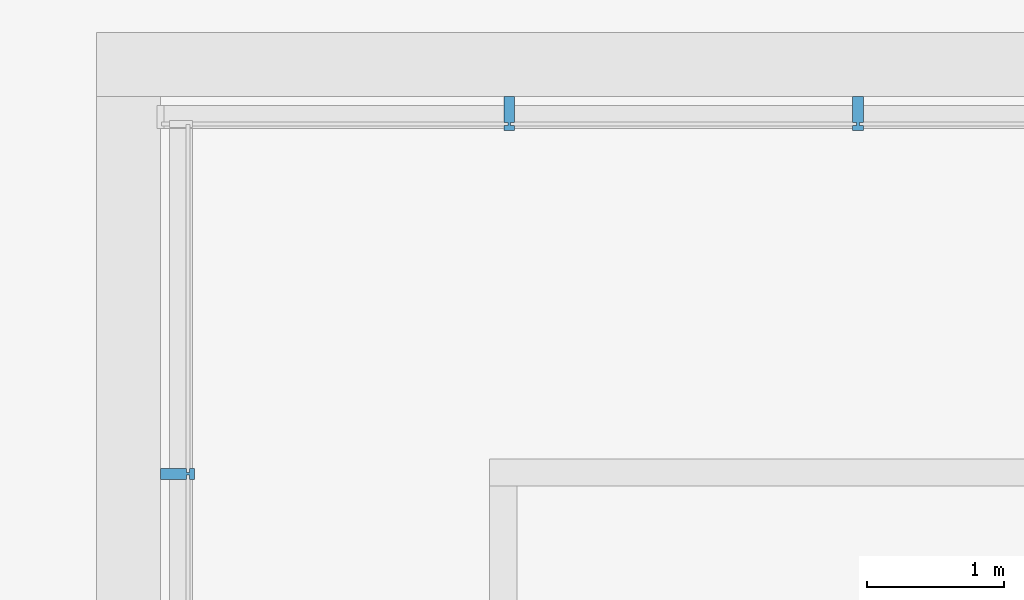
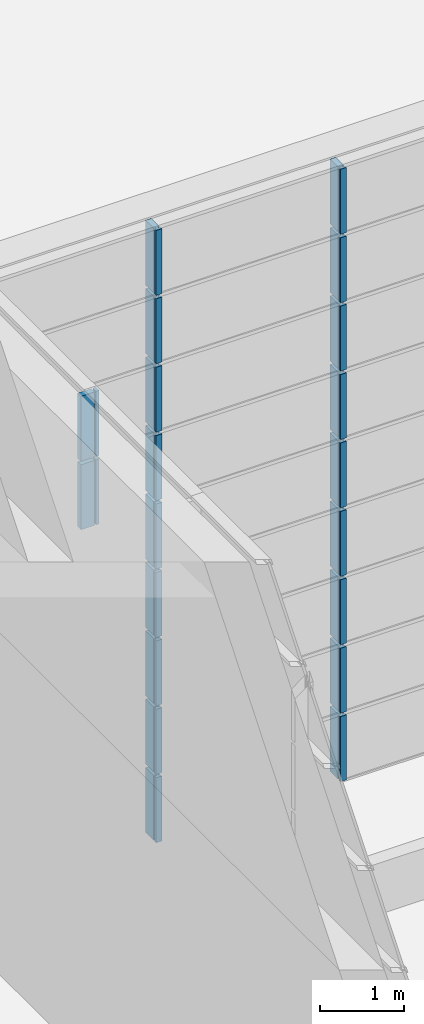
# One storey, part 79 of 105: 20 building element parts, 4 elements without a shape of their own.
"""IFC4 building model written with IfcOpenShell, lengths in millimetres."""

from ifc_helpers import new_model, entity, si_unit, converted_unit, derived_unit, direction, frame, origin_with_axes, place, context, subcontext, project, spatial, triangles, material, element, aggregate, save


model = new_model("IFC4")

# Units and contexts
model_context = context("Model", 3, precision=1e-05, world=origin_with_axes(), true_north=direction((0.0, 1.0)))
body_context = subcontext(model_context, "Body", "Model", "MODEL_VIEW")
ifc_project = project(units=[si_unit("LENGTHUNIT", "METRE", prefix="MILLI"), si_unit("AREAUNIT", "SQUARE_METRE"), si_unit("VOLUMEUNIT", "CUBIC_METRE"), converted_unit("PLANEANGLEUNIT", "DEGREE", entity("IfcLengthMeasure", 0.017453), si_unit("PLANEANGLEUNIT", "RADIAN"), dimensions=[0, 0, 0, 0, 0, 0, 0]), si_unit("SOLIDANGLEUNIT", "STERADIAN"), si_unit("MASSUNIT", "GRAM"), si_unit("TIMEUNIT", "SECOND"), si_unit("THERMODYNAMICTEMPERATUREUNIT", "DEGREE_CELSIUS"), si_unit("LUMINOUSINTENSITYUNIT", "LUMEN"), si_unit("POWERUNIT", "WATT"), derived_unit("THERMALTRANSMITTANCEUNIT", [(si_unit("POWERUNIT", "WATT"), 1), (si_unit("THERMODYNAMICTEMPERATUREUNIT", "KELVIN"), -1), (si_unit("AREAUNIT", "SQUARE_METRE"), -1)])], contexts=[model_context])

# Site, building, storey
site_placement = place(None, origin_with_axes())
site = spatial("IfcSite", under=ifc_project, at=site_placement, Name="Default Site", CompositionType="ELEMENT")
building_placement = place(site_placement, origin_with_axes())
building = spatial("IfcBuilding", under=site, at=building_placement, Name="Default Building", CompositionType="ELEMENT")
storey_placement = place(building_placement, origin_with_axes())
storey = spatial("IfcBuildingStorey", under=building, at=storey_placement, Name="OG - Story", CompositionType="ELEMENT", Elevation=0.0)

# Curtain wall, building element parts
curtain_wall_1_placement = place(storey_placement, origin_with_axes())
curtain_wall_1 = element("IfcCurtainWall", 1, at=curtain_wall_1_placement, inside=storey, Name="Fassade-005", PredefinedType="NOTDEFINED")
ifc_material = material(Name="Blech")
building_element_part_1_placement = place(curtain_wall_1_placement, frame((52496.845873, -27789.262838, 3000.0), z_axis=(0.0, 0.0, 1.0), x_axis=(1.0, 0.0, 0.0)))
building_element_part_1 = element("IfcBuildingElementPart", 2, at=building_element_part_1_placement, material=ifc_material, Name="Blech", PredefinedType="NOTDEFINED", context=body_context, shape_type="Tessellation", body=[
    triangles([(1315.455, 10.0, 975.0), (1315.455, 200.0, 975.0), (1285.455, 10.0, 975.0), (1265.455, 10.0, 975.0), (1285.455, -9.999, 975.0), (1315.455, -49.999, 975.0), (1315.455, -9.999, 975.0), (1235.455, 200.0, 975.0), (1235.455, 10.0, 975.0), (1265.455, -9.999, 975.0), (1235.455, -9.999, 975.0), (1235.455, -49.999, 975.0), (1285.455, 10.0, 25.0), (1315.455, 10.0, 25.0), (1315.455, 200.0, 25.0), (1235.455, 200.0, 25.0), (1235.455, 10.0, 25.0), (1265.455, 10.0, 25.0), (1265.455, -9.999, 25.0), (1235.455, -9.999, 25.0), (1235.455, -49.999, 25.0), (1315.455, -49.999, 25.0), (1315.455, -9.999, 25.0), (1285.455, -9.999, 25.0)], [[1, 2, 3], [3, 2, 4], [3, 4, 5], [5, 4, 6], [5, 6, 7], [8, 9, 4], [8, 4, 2], [6, 4, 10], [6, 10, 11], [6, 11, 12], [1, 3, 13], [1, 13, 14], [1, 14, 15], [1, 15, 2], [2, 15, 16], [2, 16, 8], [9, 8, 16], [9, 16, 17], [9, 17, 18], [9, 18, 4], [4, 18, 19], [4, 19, 10], [11, 10, 19], [11, 19, 20], [20, 21, 12], [20, 12, 11], [12, 21, 22], [12, 22, 6], [23, 7, 6], [23, 6, 22], [5, 7, 23], [5, 23, 24], [3, 5, 24], [3, 24, 13], [23, 22, 24], [24, 22, 19], [24, 19, 13], [13, 19, 15], [13, 15, 14], [21, 20, 19], [21, 19, 22], [15, 19, 18], [15, 18, 17], [15, 17, 16]], closed=False),
])
building_element_part_2_placement = place(curtain_wall_1_placement, frame((52496.845873, -27789.262838, 3000.0), z_axis=(0.0, 0.0, 1.0), x_axis=(1.0, 0.0, 0.0)))
building_element_part_2 = element("IfcBuildingElementPart", 3, at=building_element_part_2_placement, material=ifc_material, Name="Blech", PredefinedType="NOTDEFINED", context=body_context, shape_type="Tessellation", body=[
    triangles([(3866.364, 10.0, 975.0), (3866.364, 200.0, 975.0), (3836.364, 10.0, 975.0), (3816.364, 10.0, 975.0), (3836.364, -9.999, 975.0), (3866.364, -49.999, 975.0), (3866.364, -9.999, 975.0), (3786.364, 200.0, 975.0), (3786.364, 10.0, 975.0), (3816.364, -9.999, 975.0), (3786.364, -9.999, 975.0), (3786.364, -49.999, 975.0), (3836.364, 10.0, 25.0), (3866.364, 10.0, 25.0), (3866.364, 200.0, 25.0), (3786.364, 200.0, 25.0), (3786.364, 10.0, 25.0), (3816.364, 10.0, 25.0), (3816.364, -9.999, 25.0), (3786.364, -9.999, 25.0), (3786.364, -49.999, 25.0), (3866.364, -49.999, 25.0), (3866.364, -9.999, 25.0), (3836.364, -9.999, 25.0)], [[1, 2, 3], [3, 2, 4], [3, 4, 5], [5, 4, 6], [5, 6, 7], [8, 9, 4], [8, 4, 2], [6, 4, 10], [6, 10, 11], [6, 11, 12], [1, 3, 13], [1, 13, 14], [1, 14, 15], [1, 15, 2], [2, 15, 16], [2, 16, 8], [9, 8, 16], [9, 16, 17], [9, 17, 18], [9, 18, 4], [4, 18, 19], [4, 19, 10], [11, 10, 19], [11, 19, 20], [20, 21, 12], [20, 12, 11], [12, 21, 22], [12, 22, 6], [23, 7, 6], [23, 6, 22], [5, 7, 23], [5, 23, 24], [3, 5, 24], [3, 24, 13], [23, 22, 24], [24, 22, 19], [24, 19, 13], [13, 19, 15], [13, 15, 14], [21, 20, 19], [21, 19, 22], [15, 19, 18], [15, 18, 17], [15, 17, 16]], closed=False),
])
building_element_part_3_placement = place(curtain_wall_1_placement, frame((52496.845873, -27789.262838, 3000.0), z_axis=(0.0, 0.0, 1.0), x_axis=(1.0, 0.0, 0.0)))
building_element_part_3 = element("IfcBuildingElementPart", 4, at=building_element_part_3_placement, material=ifc_material, Name="Blech", PredefinedType="NOTDEFINED", context=body_context, shape_type="Tessellation", body=[
    triangles([(1315.455, 10.0, 1975.0), (1315.455, 200.0, 1975.0), (1285.455, 10.0, 1975.0), (1265.455, 10.0, 1975.0), (1285.455, -9.999, 1975.0), (1315.455, -49.999, 1975.0), (1315.455, -9.999, 1975.0), (1235.455, 200.0, 1975.0), (1235.455, 10.0, 1975.0), (1265.455, -9.999, 1975.0), (1235.455, -9.999, 1975.0), (1235.455, -49.999, 1975.0), (1285.455, 10.0, 1025.0), (1315.455, 10.0, 1025.0), (1315.455, 200.0, 1025.0), (1235.455, 200.0, 1025.0), (1235.455, 10.0, 1025.0), (1265.455, 10.0, 1025.0), (1265.455, -9.999, 1025.0), (1235.455, -9.999, 1025.0), (1235.455, -49.999, 1025.0), (1315.455, -49.999, 1025.0), (1315.455, -9.999, 1025.0), (1285.455, -9.999, 1025.0)], [[1, 2, 3], [3, 2, 4], [3, 4, 5], [5, 4, 6], [5, 6, 7], [8, 9, 4], [8, 4, 2], [6, 4, 10], [6, 10, 11], [6, 11, 12], [1, 3, 13], [1, 13, 14], [1, 14, 15], [1, 15, 2], [2, 15, 16], [2, 16, 8], [9, 8, 16], [9, 16, 17], [9, 17, 18], [9, 18, 4], [4, 18, 19], [4, 19, 10], [11, 10, 19], [11, 19, 20], [20, 21, 12], [20, 12, 11], [12, 21, 22], [12, 22, 6], [23, 7, 6], [23, 6, 22], [5, 7, 23], [5, 23, 24], [3, 5, 24], [3, 24, 13], [23, 22, 24], [24, 22, 19], [24, 19, 13], [13, 19, 15], [13, 15, 14], [21, 20, 19], [21, 19, 22], [15, 19, 18], [15, 18, 17], [15, 17, 16]], closed=False),
])
building_element_part_4_placement = place(curtain_wall_1_placement, frame((52496.845873, -27789.262838, 3000.0), z_axis=(0.0, 0.0, 1.0), x_axis=(1.0, 0.0, 0.0)))
building_element_part_4 = element("IfcBuildingElementPart", 5, at=building_element_part_4_placement, material=ifc_material, Name="Blech", PredefinedType="NOTDEFINED", context=body_context, shape_type="Tessellation", body=[
    triangles([(3866.364, 10.0, 1975.0), (3866.364, 200.0, 1975.0), (3836.364, 10.0, 1975.0), (3816.364, 10.0, 1975.0), (3836.364, -9.999, 1975.0), (3866.364, -49.999, 1975.0), (3866.364, -9.999, 1975.0), (3786.364, 200.0, 1975.0), (3786.364, 10.0, 1975.0), (3816.364, -9.999, 1975.0), (3786.364, -9.999, 1975.0), (3786.364, -49.999, 1975.0), (3836.364, 10.0, 1025.0), (3866.364, 10.0, 1025.0), (3866.364, 200.0, 1025.0), (3786.364, 200.0, 1025.0), (3786.364, 10.0, 1025.0), (3816.364, 10.0, 1025.0), (3816.364, -9.999, 1025.0), (3786.364, -9.999, 1025.0), (3786.364, -49.999, 1025.0), (3866.364, -49.999, 1025.0), (3866.364, -9.999, 1025.0), (3836.364, -9.999, 1025.0)], [[1, 2, 3], [3, 2, 4], [3, 4, 5], [5, 4, 6], [5, 6, 7], [8, 9, 4], [8, 4, 2], [6, 4, 10], [6, 10, 11], [6, 11, 12], [1, 3, 13], [1, 13, 14], [1, 14, 15], [1, 15, 2], [2, 15, 16], [2, 16, 8], [9, 8, 16], [9, 16, 17], [9, 17, 18], [9, 18, 4], [4, 18, 19], [4, 19, 10], [11, 10, 19], [11, 19, 20], [20, 21, 12], [20, 12, 11], [12, 21, 22], [12, 22, 6], [23, 7, 6], [23, 6, 22], [5, 7, 23], [5, 23, 24], [3, 5, 24], [3, 24, 13], [23, 22, 24], [24, 22, 19], [24, 19, 13], [13, 19, 15], [13, 15, 14], [21, 20, 19], [21, 19, 22], [15, 19, 18], [15, 18, 17], [15, 17, 16]], closed=False),
])
building_element_part_5_placement = place(curtain_wall_1_placement, frame((52496.845873, -27789.262838, 3000.0), z_axis=(0.0, 0.0, 1.0), x_axis=(1.0, 0.0, 0.0)))
building_element_part_5 = element("IfcBuildingElementPart", 6, at=building_element_part_5_placement, material=ifc_material, Name="Blech", PredefinedType="NOTDEFINED", context=body_context, shape_type="Tessellation", body=[
    triangles([(1315.455, 10.0, 2975.0), (1315.455, 200.0, 2975.0), (1285.455, 10.0, 2975.0), (1265.455, 10.0, 2975.0), (1285.455, -9.999, 2975.0), (1315.455, -49.999, 2975.0), (1315.455, -9.999, 2975.0), (1235.455, 200.0, 2975.0), (1235.455, 10.0, 2975.0), (1265.455, -9.999, 2975.0), (1235.455, -9.999, 2975.0), (1235.455, -49.999, 2975.0), (1285.455, 10.0, 2025.0), (1315.455, 10.0, 2025.0), (1315.455, 200.0, 2025.0), (1235.455, 200.0, 2025.0), (1235.455, 10.0, 2025.0), (1265.455, 10.0, 2025.0), (1265.455, -9.999, 2025.0), (1235.455, -9.999, 2025.0), (1235.455, -49.999, 2025.0), (1315.455, -49.999, 2025.0), (1315.455, -9.999, 2025.0), (1285.455, -9.999, 2025.0)], [[1, 2, 3], [3, 2, 4], [3, 4, 5], [5, 4, 6], [5, 6, 7], [8, 9, 4], [8, 4, 2], [6, 4, 10], [6, 10, 11], [6, 11, 12], [1, 3, 13], [1, 13, 14], [1, 14, 15], [1, 15, 2], [2, 15, 16], [2, 16, 8], [9, 8, 16], [9, 16, 17], [9, 17, 18], [9, 18, 4], [4, 18, 19], [4, 19, 10], [11, 10, 19], [11, 19, 20], [20, 21, 12], [20, 12, 11], [12, 21, 22], [12, 22, 6], [23, 7, 6], [23, 6, 22], [5, 7, 23], [5, 23, 24], [3, 5, 24], [3, 24, 13], [23, 22, 24], [24, 22, 19], [24, 19, 13], [13, 19, 15], [13, 15, 14], [21, 20, 19], [21, 19, 22], [15, 19, 18], [15, 18, 17], [15, 17, 16]], closed=False),
])
building_element_part_6_placement = place(curtain_wall_1_placement, frame((52496.845873, -27789.262838, 3000.0), z_axis=(0.0, 0.0, 1.0), x_axis=(1.0, 0.0, 0.0)))
building_element_part_6 = element("IfcBuildingElementPart", 7, at=building_element_part_6_placement, material=ifc_material, Name="Blech", PredefinedType="NOTDEFINED", context=body_context, shape_type="Tessellation", body=[
    triangles([(3866.364, 10.0, 2975.0), (3866.364, 200.0, 2975.0), (3836.364, 10.0, 2975.0), (3816.364, 10.0, 2975.0), (3836.364, -9.999, 2975.0), (3866.364, -49.999, 2975.0), (3866.364, -9.999, 2975.0), (3786.364, 200.0, 2975.0), (3786.364, 10.0, 2975.0), (3816.364, -9.999, 2975.0), (3786.364, -9.999, 2975.0), (3786.364, -49.999, 2975.0), (3836.364, 10.0, 2025.0), (3866.364, 10.0, 2025.0), (3866.364, 200.0, 2025.0), (3786.364, 200.0, 2025.0), (3786.364, 10.0, 2025.0), (3816.364, 10.0, 2025.0), (3816.364, -9.999, 2025.0), (3786.364, -9.999, 2025.0), (3786.364, -49.999, 2025.0), (3866.364, -49.999, 2025.0), (3866.364, -9.999, 2025.0), (3836.364, -9.999, 2025.0)], [[1, 2, 3], [3, 2, 4], [3, 4, 5], [5, 4, 6], [5, 6, 7], [8, 9, 4], [8, 4, 2], [6, 4, 10], [6, 10, 11], [6, 11, 12], [1, 3, 13], [1, 13, 14], [1, 14, 15], [1, 15, 2], [2, 15, 16], [2, 16, 8], [9, 8, 16], [9, 16, 17], [9, 17, 18], [9, 18, 4], [4, 18, 19], [4, 19, 10], [11, 10, 19], [11, 19, 20], [20, 21, 12], [20, 12, 11], [12, 21, 22], [12, 22, 6], [23, 7, 6], [23, 6, 22], [5, 7, 23], [5, 23, 24], [3, 5, 24], [3, 24, 13], [23, 22, 24], [24, 22, 19], [24, 19, 13], [13, 19, 15], [13, 15, 14], [21, 20, 19], [21, 19, 22], [15, 19, 18], [15, 18, 17], [15, 17, 16]], closed=False),
])
aggregate(curtain_wall_1, [building_element_part_1, building_element_part_2, building_element_part_3, building_element_part_4, building_element_part_5, building_element_part_6])

curtain_wall_2_placement = place(storey_placement, origin_with_axes())
curtain_wall_2 = element("IfcCurtainWall", 8, at=curtain_wall_2_placement, inside=storey, Name="Fassade-005", PredefinedType="NOTDEFINED")
building_element_part_7_placement = place(curtain_wall_2_placement, frame((52496.845873, -27789.262838, 6000.0), z_axis=(0.0, 0.0, 1.0), x_axis=(1.0, 0.0, 0.0)))
building_element_part_7 = element("IfcBuildingElementPart", 9, at=building_element_part_7_placement, material=ifc_material, Name="Blech", PredefinedType="NOTDEFINED", context=body_context, shape_type="Tessellation", body=[
    triangles([(1315.455, 10.0, 975.0), (1315.455, 200.0, 975.0), (1285.455, 10.0, 975.0), (1265.455, 10.0, 975.0), (1285.455, -9.999, 975.0), (1315.455, -49.999, 975.0), (1315.455, -9.999, 975.0), (1235.455, 200.0, 975.0), (1235.455, 10.0, 975.0), (1265.455, -9.999, 975.0), (1235.455, -9.999, 975.0), (1235.455, -49.999, 975.0), (1285.455, 10.0, 25.0), (1315.455, 10.0, 25.0), (1315.455, 200.0, 25.0), (1235.455, 200.0, 25.0), (1235.455, 10.0, 25.0), (1265.455, 10.0, 25.0), (1265.455, -9.999, 25.0), (1235.455, -9.999, 25.0), (1235.455, -49.999, 25.0), (1315.455, -49.999, 25.0), (1315.455, -9.999, 25.0), (1285.455, -9.999, 25.0)], [[1, 2, 3], [3, 2, 4], [3, 4, 5], [5, 4, 6], [5, 6, 7], [8, 9, 4], [8, 4, 2], [6, 4, 10], [6, 10, 11], [6, 11, 12], [1, 3, 13], [1, 13, 14], [1, 14, 15], [1, 15, 2], [2, 15, 16], [2, 16, 8], [9, 8, 16], [9, 16, 17], [9, 17, 18], [9, 18, 4], [4, 18, 19], [4, 19, 10], [11, 10, 19], [11, 19, 20], [20, 21, 12], [20, 12, 11], [12, 21, 22], [12, 22, 6], [23, 7, 6], [23, 6, 22], [5, 7, 23], [5, 23, 24], [3, 5, 24], [3, 24, 13], [23, 22, 24], [24, 22, 19], [24, 19, 13], [13, 19, 15], [13, 15, 14], [21, 20, 19], [21, 19, 22], [15, 19, 18], [15, 18, 17], [15, 17, 16]], closed=False),
])
building_element_part_8_placement = place(curtain_wall_2_placement, frame((52496.845873, -27789.262838, 6000.0), z_axis=(0.0, 0.0, 1.0), x_axis=(1.0, 0.0, 0.0)))
building_element_part_8 = element("IfcBuildingElementPart", 10, at=building_element_part_8_placement, material=ifc_material, Name="Blech", PredefinedType="NOTDEFINED", context=body_context, shape_type="Tessellation", body=[
    triangles([(3866.364, 10.0, 975.0), (3866.364, 200.0, 975.0), (3836.364, 10.0, 975.0), (3816.364, 10.0, 975.0), (3836.364, -9.999, 975.0), (3866.364, -49.999, 975.0), (3866.364, -9.999, 975.0), (3786.364, 200.0, 975.0), (3786.364, 10.0, 975.0), (3816.364, -9.999, 975.0), (3786.364, -9.999, 975.0), (3786.364, -49.999, 975.0), (3836.364, 10.0, 25.0), (3866.364, 10.0, 25.0), (3866.364, 200.0, 25.0), (3786.364, 200.0, 25.0), (3786.364, 10.0, 25.0), (3816.364, 10.0, 25.0), (3816.364, -9.999, 25.0), (3786.364, -9.999, 25.0), (3786.364, -49.999, 25.0), (3866.364, -49.999, 25.0), (3866.364, -9.999, 25.0), (3836.364, -9.999, 25.0)], [[1, 2, 3], [3, 2, 4], [3, 4, 5], [5, 4, 6], [5, 6, 7], [8, 9, 4], [8, 4, 2], [6, 4, 10], [6, 10, 11], [6, 11, 12], [1, 3, 13], [1, 13, 14], [1, 14, 15], [1, 15, 2], [2, 15, 16], [2, 16, 8], [9, 8, 16], [9, 16, 17], [9, 17, 18], [9, 18, 4], [4, 18, 19], [4, 19, 10], [11, 10, 19], [11, 19, 20], [20, 21, 12], [20, 12, 11], [12, 21, 22], [12, 22, 6], [23, 7, 6], [23, 6, 22], [5, 7, 23], [5, 23, 24], [3, 5, 24], [3, 24, 13], [23, 22, 24], [24, 22, 19], [24, 19, 13], [13, 19, 15], [13, 15, 14], [21, 20, 19], [21, 19, 22], [15, 19, 18], [15, 18, 17], [15, 17, 16]], closed=False),
])
building_element_part_9_placement = place(curtain_wall_2_placement, frame((52496.845873, -27789.262838, 6000.0), z_axis=(0.0, 0.0, 1.0), x_axis=(1.0, 0.0, 0.0)))
building_element_part_9 = element("IfcBuildingElementPart", 11, at=building_element_part_9_placement, material=ifc_material, Name="Blech", PredefinedType="NOTDEFINED", context=body_context, shape_type="Tessellation", body=[
    triangles([(1315.455, 10.0, 1975.0), (1315.455, 200.0, 1975.0), (1285.455, 10.0, 1975.0), (1265.455, 10.0, 1975.0), (1285.455, -9.999, 1975.0), (1315.455, -49.999, 1975.0), (1315.455, -9.999, 1975.0), (1235.455, 200.0, 1975.0), (1235.455, 10.0, 1975.0), (1265.455, -9.999, 1975.0), (1235.455, -9.999, 1975.0), (1235.455, -49.999, 1975.0), (1285.455, 10.0, 1025.0), (1315.455, 10.0, 1025.0), (1315.455, 200.0, 1025.0), (1235.455, 200.0, 1025.0), (1235.455, 10.0, 1025.0), (1265.455, 10.0, 1025.0), (1265.455, -9.999, 1025.0), (1235.455, -9.999, 1025.0), (1235.455, -49.999, 1025.0), (1315.455, -49.999, 1025.0), (1315.455, -9.999, 1025.0), (1285.455, -9.999, 1025.0)], [[1, 2, 3], [3, 2, 4], [3, 4, 5], [5, 4, 6], [5, 6, 7], [8, 9, 4], [8, 4, 2], [6, 4, 10], [6, 10, 11], [6, 11, 12], [1, 3, 13], [1, 13, 14], [1, 14, 15], [1, 15, 2], [2, 15, 16], [2, 16, 8], [9, 8, 16], [9, 16, 17], [9, 17, 18], [9, 18, 4], [4, 18, 19], [4, 19, 10], [11, 10, 19], [11, 19, 20], [20, 21, 12], [20, 12, 11], [12, 21, 22], [12, 22, 6], [23, 7, 6], [23, 6, 22], [5, 7, 23], [5, 23, 24], [3, 5, 24], [3, 24, 13], [23, 22, 24], [24, 22, 19], [24, 19, 13], [13, 19, 15], [13, 15, 14], [21, 20, 19], [21, 19, 22], [15, 19, 18], [15, 18, 17], [15, 17, 16]], closed=False),
])
building_element_part_10_placement = place(curtain_wall_2_placement, frame((52496.845873, -27789.262838, 6000.0), z_axis=(0.0, 0.0, 1.0), x_axis=(1.0, 0.0, 0.0)))
building_element_part_10 = element("IfcBuildingElementPart", 12, at=building_element_part_10_placement, material=ifc_material, Name="Blech", PredefinedType="NOTDEFINED", context=body_context, shape_type="Tessellation", body=[
    triangles([(3866.364, 10.0, 1975.0), (3866.364, 200.0, 1975.0), (3836.364, 10.0, 1975.0), (3816.364, 10.0, 1975.0), (3836.364, -9.999, 1975.0), (3866.364, -49.999, 1975.0), (3866.364, -9.999, 1975.0), (3786.364, 200.0, 1975.0), (3786.364, 10.0, 1975.0), (3816.364, -9.999, 1975.0), (3786.364, -9.999, 1975.0), (3786.364, -49.999, 1975.0), (3836.364, 10.0, 1025.0), (3866.364, 10.0, 1025.0), (3866.364, 200.0, 1025.0), (3786.364, 200.0, 1025.0), (3786.364, 10.0, 1025.0), (3816.364, 10.0, 1025.0), (3816.364, -9.999, 1025.0), (3786.364, -9.999, 1025.0), (3786.364, -49.999, 1025.0), (3866.364, -49.999, 1025.0), (3866.364, -9.999, 1025.0), (3836.364, -9.999, 1025.0)], [[1, 2, 3], [3, 2, 4], [3, 4, 5], [5, 4, 6], [5, 6, 7], [8, 9, 4], [8, 4, 2], [6, 4, 10], [6, 10, 11], [6, 11, 12], [1, 3, 13], [1, 13, 14], [1, 14, 15], [1, 15, 2], [2, 15, 16], [2, 16, 8], [9, 8, 16], [9, 16, 17], [9, 17, 18], [9, 18, 4], [4, 18, 19], [4, 19, 10], [11, 10, 19], [11, 19, 20], [20, 21, 12], [20, 12, 11], [12, 21, 22], [12, 22, 6], [23, 7, 6], [23, 6, 22], [5, 7, 23], [5, 23, 24], [3, 5, 24], [3, 24, 13], [23, 22, 24], [24, 22, 19], [24, 19, 13], [13, 19, 15], [13, 15, 14], [21, 20, 19], [21, 19, 22], [15, 19, 18], [15, 18, 17], [15, 17, 16]], closed=False),
])
building_element_part_11_placement = place(curtain_wall_2_placement, frame((52496.845873, -27789.262838, 6000.0), z_axis=(0.0, 0.0, 1.0), x_axis=(1.0, 0.0, 0.0)))
building_element_part_11 = element("IfcBuildingElementPart", 13, at=building_element_part_11_placement, material=ifc_material, Name="Blech", PredefinedType="NOTDEFINED", context=body_context, shape_type="Tessellation", body=[
    triangles([(1315.455, 10.0, 2975.0), (1315.455, 200.0, 2975.0), (1285.455, 10.0, 2975.0), (1265.455, 10.0, 2975.0), (1285.455, -9.999, 2975.0), (1315.455, -49.999, 2975.0), (1315.455, -9.999, 2975.0), (1235.455, 200.0, 2975.0), (1235.455, 10.0, 2975.0), (1265.455, -9.999, 2975.0), (1235.455, -9.999, 2975.0), (1235.455, -49.999, 2975.0), (1285.455, 10.0, 2025.0), (1315.455, 10.0, 2025.0), (1315.455, 200.0, 2025.0), (1235.455, 200.0, 2025.0), (1235.455, 10.0, 2025.0), (1265.455, 10.0, 2025.0), (1265.455, -9.999, 2025.0), (1235.455, -9.999, 2025.0), (1235.455, -49.999, 2025.0), (1315.455, -49.999, 2025.0), (1315.455, -9.999, 2025.0), (1285.455, -9.999, 2025.0)], [[1, 2, 3], [3, 2, 4], [3, 4, 5], [5, 4, 6], [5, 6, 7], [8, 9, 4], [8, 4, 2], [6, 4, 10], [6, 10, 11], [6, 11, 12], [1, 3, 13], [1, 13, 14], [1, 14, 15], [1, 15, 2], [2, 15, 16], [2, 16, 8], [9, 8, 16], [9, 16, 17], [9, 17, 18], [9, 18, 4], [4, 18, 19], [4, 19, 10], [11, 10, 19], [11, 19, 20], [20, 21, 12], [20, 12, 11], [12, 21, 22], [12, 22, 6], [23, 7, 6], [23, 6, 22], [5, 7, 23], [5, 23, 24], [3, 5, 24], [3, 24, 13], [23, 22, 24], [24, 22, 19], [24, 19, 13], [13, 19, 15], [13, 15, 14], [21, 20, 19], [21, 19, 22], [15, 19, 18], [15, 18, 17], [15, 17, 16]], closed=False),
])
building_element_part_12_placement = place(curtain_wall_2_placement, frame((52496.845873, -27789.262838, 6000.0), z_axis=(0.0, 0.0, 1.0), x_axis=(1.0, 0.0, 0.0)))
building_element_part_12 = element("IfcBuildingElementPart", 14, at=building_element_part_12_placement, material=ifc_material, Name="Blech", PredefinedType="NOTDEFINED", context=body_context, shape_type="Tessellation", body=[
    triangles([(3866.364, 10.0, 2975.0), (3866.364, 200.0, 2975.0), (3836.364, 10.0, 2975.0), (3816.364, 10.0, 2975.0), (3836.364, -9.999, 2975.0), (3866.364, -49.999, 2975.0), (3866.364, -9.999, 2975.0), (3786.364, 200.0, 2975.0), (3786.364, 10.0, 2975.0), (3816.364, -9.999, 2975.0), (3786.364, -9.999, 2975.0), (3786.364, -49.999, 2975.0), (3836.364, 10.0, 2025.0), (3866.364, 10.0, 2025.0), (3866.364, 200.0, 2025.0), (3786.364, 200.0, 2025.0), (3786.364, 10.0, 2025.0), (3816.364, 10.0, 2025.0), (3816.364, -9.999, 2025.0), (3786.364, -9.999, 2025.0), (3786.364, -49.999, 2025.0), (3866.364, -49.999, 2025.0), (3866.364, -9.999, 2025.0), (3836.364, -9.999, 2025.0)], [[1, 2, 3], [3, 2, 4], [3, 4, 5], [5, 4, 6], [5, 6, 7], [8, 9, 4], [8, 4, 2], [6, 4, 10], [6, 10, 11], [6, 11, 12], [1, 3, 13], [1, 13, 14], [1, 14, 15], [1, 15, 2], [2, 15, 16], [2, 16, 8], [9, 8, 16], [9, 16, 17], [9, 17, 18], [9, 18, 4], [4, 18, 19], [4, 19, 10], [11, 10, 19], [11, 19, 20], [20, 21, 12], [20, 12, 11], [12, 21, 22], [12, 22, 6], [23, 7, 6], [23, 6, 22], [5, 7, 23], [5, 23, 24], [3, 5, 24], [3, 24, 13], [23, 22, 24], [24, 22, 19], [24, 19, 13], [13, 19, 15], [13, 15, 14], [21, 20, 19], [21, 19, 22], [15, 19, 18], [15, 18, 17], [15, 17, 16]], closed=False),
])
aggregate(curtain_wall_2, [building_element_part_7, building_element_part_8, building_element_part_9, building_element_part_10, building_element_part_11, building_element_part_12])

curtain_wall_3_placement = place(storey_placement, origin_with_axes())
curtain_wall_3 = element("IfcCurtainWall", 15, at=curtain_wall_3_placement, inside=storey, Name="Fassade-005", PredefinedType="NOTDEFINED")
building_element_part_13_placement = place(curtain_wall_3_placement, frame((52496.845873, -27789.262838, 9000.0), z_axis=(0.0, 0.0, 1.0), x_axis=(1.0, 0.0, 0.0)))
building_element_part_13 = element("IfcBuildingElementPart", 16, at=building_element_part_13_placement, material=ifc_material, Name="Blech", PredefinedType="NOTDEFINED", context=body_context, shape_type="Tessellation", body=[
    triangles([(1315.455, 10.0, 975.0), (1315.455, 200.0, 975.0), (1285.455, 10.0, 975.0), (1265.455, 10.0, 975.0), (1285.455, -9.999, 975.0), (1315.455, -49.999, 975.0), (1315.455, -9.999, 975.0), (1235.455, 200.0, 975.0), (1235.455, 10.0, 975.0), (1265.455, -9.999, 975.0), (1235.455, -9.999, 975.0), (1235.455, -49.999, 975.0), (1285.455, 10.0, 25.0), (1315.455, 10.0, 25.0), (1315.455, 200.0, 25.0), (1235.455, 200.0, 25.0), (1235.455, 10.0, 25.0), (1265.455, 10.0, 25.0), (1265.455, -9.999, 25.0), (1235.455, -9.999, 25.0), (1235.455, -49.999, 25.0), (1315.455, -49.999, 25.0), (1315.455, -9.999, 25.0), (1285.455, -9.999, 25.0)], [[1, 2, 3], [3, 2, 4], [3, 4, 5], [5, 4, 6], [5, 6, 7], [8, 9, 4], [8, 4, 2], [6, 4, 10], [6, 10, 11], [6, 11, 12], [1, 3, 13], [1, 13, 14], [1, 14, 15], [1, 15, 2], [2, 15, 16], [2, 16, 8], [9, 8, 16], [9, 16, 17], [9, 17, 18], [9, 18, 4], [4, 18, 19], [4, 19, 10], [11, 10, 19], [11, 19, 20], [20, 21, 12], [20, 12, 11], [12, 21, 22], [12, 22, 6], [23, 7, 6], [23, 6, 22], [5, 7, 23], [5, 23, 24], [3, 5, 24], [3, 24, 13], [23, 22, 24], [24, 22, 19], [24, 19, 13], [13, 19, 15], [13, 15, 14], [21, 20, 19], [21, 19, 22], [15, 19, 18], [15, 18, 17], [15, 17, 16]], closed=False),
])
building_element_part_14_placement = place(curtain_wall_3_placement, frame((52496.845873, -27789.262838, 9000.0), z_axis=(0.0, 0.0, 1.0), x_axis=(1.0, 0.0, 0.0)))
building_element_part_14 = element("IfcBuildingElementPart", 17, at=building_element_part_14_placement, material=ifc_material, Name="Blech", PredefinedType="NOTDEFINED", context=body_context, shape_type="Tessellation", body=[
    triangles([(3866.364, 10.0, 975.0), (3866.364, 200.0, 975.0), (3836.364, 10.0, 975.0), (3816.364, 10.0, 975.0), (3836.364, -9.999, 975.0), (3866.364, -49.999, 975.0), (3866.364, -9.999, 975.0), (3786.364, 200.0, 975.0), (3786.364, 10.0, 975.0), (3816.364, -9.999, 975.0), (3786.364, -9.999, 975.0), (3786.364, -49.999, 975.0), (3836.364, 10.0, 25.0), (3866.364, 10.0, 25.0), (3866.364, 200.0, 25.0), (3786.364, 200.0, 25.0), (3786.364, 10.0, 25.0), (3816.364, 10.0, 25.0), (3816.364, -9.999, 25.0), (3786.364, -9.999, 25.0), (3786.364, -49.999, 25.0), (3866.364, -49.999, 25.0), (3866.364, -9.999, 25.0), (3836.364, -9.999, 25.0)], [[1, 2, 3], [3, 2, 4], [3, 4, 5], [5, 4, 6], [5, 6, 7], [8, 9, 4], [8, 4, 2], [6, 4, 10], [6, 10, 11], [6, 11, 12], [1, 3, 13], [1, 13, 14], [1, 14, 15], [1, 15, 2], [2, 15, 16], [2, 16, 8], [9, 8, 16], [9, 16, 17], [9, 17, 18], [9, 18, 4], [4, 18, 19], [4, 19, 10], [11, 10, 19], [11, 19, 20], [20, 21, 12], [20, 12, 11], [12, 21, 22], [12, 22, 6], [23, 7, 6], [23, 6, 22], [5, 7, 23], [5, 23, 24], [3, 5, 24], [3, 24, 13], [23, 22, 24], [24, 22, 19], [24, 19, 13], [13, 19, 15], [13, 15, 14], [21, 20, 19], [21, 19, 22], [15, 19, 18], [15, 18, 17], [15, 17, 16]], closed=False),
])
building_element_part_15_placement = place(curtain_wall_3_placement, frame((52496.845873, -27789.262838, 9000.0), z_axis=(0.0, 0.0, 1.0), x_axis=(1.0, 0.0, 0.0)))
building_element_part_15 = element("IfcBuildingElementPart", 18, at=building_element_part_15_placement, material=ifc_material, Name="Blech", PredefinedType="NOTDEFINED", context=body_context, shape_type="Tessellation", body=[
    triangles([(1315.455, 10.0, 1975.0), (1315.455, 200.0, 1975.0), (1285.455, 10.0, 1975.0), (1265.455, 10.0, 1975.0), (1285.455, -9.999, 1975.0), (1315.455, -49.999, 1975.0), (1315.455, -9.999, 1975.0), (1235.455, 200.0, 1975.0), (1235.455, 10.0, 1975.0), (1265.455, -9.999, 1975.0), (1235.455, -9.999, 1975.0), (1235.455, -49.999, 1975.0), (1285.455, 10.0, 1025.0), (1315.455, 10.0, 1025.0), (1315.455, 200.0, 1025.0), (1235.455, 200.0, 1025.0), (1235.455, 10.0, 1025.0), (1265.455, 10.0, 1025.0), (1265.455, -9.999, 1025.0), (1235.455, -9.999, 1025.0), (1235.455, -49.999, 1025.0), (1315.455, -49.999, 1025.0), (1315.455, -9.999, 1025.0), (1285.455, -9.999, 1025.0)], [[1, 2, 3], [3, 2, 4], [3, 4, 5], [5, 4, 6], [5, 6, 7], [8, 9, 4], [8, 4, 2], [6, 4, 10], [6, 10, 11], [6, 11, 12], [1, 3, 13], [1, 13, 14], [1, 14, 15], [1, 15, 2], [2, 15, 16], [2, 16, 8], [9, 8, 16], [9, 16, 17], [9, 17, 18], [9, 18, 4], [4, 18, 19], [4, 19, 10], [11, 10, 19], [11, 19, 20], [20, 21, 12], [20, 12, 11], [12, 21, 22], [12, 22, 6], [23, 7, 6], [23, 6, 22], [5, 7, 23], [5, 23, 24], [3, 5, 24], [3, 24, 13], [23, 22, 24], [24, 22, 19], [24, 19, 13], [13, 19, 15], [13, 15, 14], [21, 20, 19], [21, 19, 22], [15, 19, 18], [15, 18, 17], [15, 17, 16]], closed=False),
])
building_element_part_16_placement = place(curtain_wall_3_placement, frame((52496.845873, -27789.262838, 9000.0), z_axis=(0.0, 0.0, 1.0), x_axis=(1.0, 0.0, 0.0)))
building_element_part_16 = element("IfcBuildingElementPart", 19, at=building_element_part_16_placement, material=ifc_material, Name="Blech", PredefinedType="NOTDEFINED", context=body_context, shape_type="Tessellation", body=[
    triangles([(3866.364, 10.0, 1975.0), (3866.364, 200.0, 1975.0), (3836.364, 10.0, 1975.0), (3816.364, 10.0, 1975.0), (3836.364, -9.999, 1975.0), (3866.364, -49.999, 1975.0), (3866.364, -9.999, 1975.0), (3786.364, 200.0, 1975.0), (3786.364, 10.0, 1975.0), (3816.364, -9.999, 1975.0), (3786.364, -9.999, 1975.0), (3786.364, -49.999, 1975.0), (3836.364, 10.0, 1025.0), (3866.364, 10.0, 1025.0), (3866.364, 200.0, 1025.0), (3786.364, 200.0, 1025.0), (3786.364, 10.0, 1025.0), (3816.364, 10.0, 1025.0), (3816.364, -9.999, 1025.0), (3786.364, -9.999, 1025.0), (3786.364, -49.999, 1025.0), (3866.364, -49.999, 1025.0), (3866.364, -9.999, 1025.0), (3836.364, -9.999, 1025.0)], [[1, 2, 3], [3, 2, 4], [3, 4, 5], [5, 4, 6], [5, 6, 7], [8, 9, 4], [8, 4, 2], [6, 4, 10], [6, 10, 11], [6, 11, 12], [1, 3, 13], [1, 13, 14], [1, 14, 15], [1, 15, 2], [2, 15, 16], [2, 16, 8], [9, 8, 16], [9, 16, 17], [9, 17, 18], [9, 18, 4], [4, 18, 19], [4, 19, 10], [11, 10, 19], [11, 19, 20], [20, 21, 12], [20, 12, 11], [12, 21, 22], [12, 22, 6], [23, 7, 6], [23, 6, 22], [5, 7, 23], [5, 23, 24], [3, 5, 24], [3, 24, 13], [23, 22, 24], [24, 22, 19], [24, 19, 13], [13, 19, 15], [13, 15, 14], [21, 20, 19], [21, 19, 22], [15, 19, 18], [15, 18, 17], [15, 17, 16]], closed=False),
])
building_element_part_17_placement = place(curtain_wall_3_placement, frame((52496.845873, -27789.262838, 9000.0), z_axis=(0.0, 0.0, 1.0), x_axis=(1.0, 0.0, 0.0)))
building_element_part_17 = element("IfcBuildingElementPart", 20, at=building_element_part_17_placement, material=ifc_material, Name="Blech", PredefinedType="NOTDEFINED", context=body_context, shape_type="Tessellation", body=[
    triangles([(1315.455, 10.0, 2975.0), (1315.455, 200.0, 2975.0), (1285.455, 10.0, 2975.0), (1265.455, 10.0, 2975.0), (1285.455, -9.999, 2975.0), (1315.455, -49.999, 2975.0), (1315.455, -9.999, 2975.0), (1235.455, 200.0, 2975.0), (1235.455, 10.0, 2975.0), (1265.455, -9.999, 2975.0), (1235.455, -9.999, 2975.0), (1235.455, -49.999, 2975.0), (1285.455, 10.0, 2025.0), (1315.455, 10.0, 2025.0), (1315.455, 200.0, 2025.0), (1235.455, 200.0, 2025.0), (1235.455, 10.0, 2025.0), (1265.455, 10.0, 2025.0), (1265.455, -9.999, 2025.0), (1235.455, -9.999, 2025.0), (1235.455, -49.999, 2025.0), (1315.455, -49.999, 2025.0), (1315.455, -9.999, 2025.0), (1285.455, -9.999, 2025.0)], [[1, 2, 3], [3, 2, 4], [3, 4, 5], [5, 4, 6], [5, 6, 7], [8, 9, 4], [8, 4, 2], [6, 4, 10], [6, 10, 11], [6, 11, 12], [1, 3, 13], [1, 13, 14], [1, 14, 15], [1, 15, 2], [2, 15, 16], [2, 16, 8], [9, 8, 16], [9, 16, 17], [9, 17, 18], [9, 18, 4], [4, 18, 19], [4, 19, 10], [11, 10, 19], [11, 19, 20], [20, 21, 12], [20, 12, 11], [12, 21, 22], [12, 22, 6], [23, 7, 6], [23, 6, 22], [5, 7, 23], [5, 23, 24], [3, 5, 24], [3, 24, 13], [23, 22, 24], [24, 22, 19], [24, 19, 13], [13, 19, 15], [13, 15, 14], [21, 20, 19], [21, 19, 22], [15, 19, 18], [15, 18, 17], [15, 17, 16]], closed=False),
])
building_element_part_18_placement = place(curtain_wall_3_placement, frame((52496.845873, -27789.262838, 9000.0), z_axis=(0.0, 0.0, 1.0), x_axis=(1.0, 0.0, 0.0)))
building_element_part_18 = element("IfcBuildingElementPart", 21, at=building_element_part_18_placement, material=ifc_material, Name="Blech", PredefinedType="NOTDEFINED", context=body_context, shape_type="Tessellation", body=[
    triangles([(3866.364, 10.0, 2975.0), (3866.364, 200.0, 2975.0), (3836.364, 10.0, 2975.0), (3816.364, 10.0, 2975.0), (3836.364, -9.999, 2975.0), (3866.364, -49.999, 2975.0), (3866.364, -9.999, 2975.0), (3786.364, 200.0, 2975.0), (3786.364, 10.0, 2975.0), (3816.364, -9.999, 2975.0), (3786.364, -9.999, 2975.0), (3786.364, -49.999, 2975.0), (3836.364, 10.0, 2025.0), (3866.364, 10.0, 2025.0), (3866.364, 200.0, 2025.0), (3786.364, 200.0, 2025.0), (3786.364, 10.0, 2025.0), (3816.364, 10.0, 2025.0), (3816.364, -9.999, 2025.0), (3786.364, -9.999, 2025.0), (3786.364, -49.999, 2025.0), (3866.364, -49.999, 2025.0), (3866.364, -9.999, 2025.0), (3836.364, -9.999, 2025.0)], [[1, 2, 3], [3, 2, 4], [3, 4, 5], [5, 4, 6], [5, 6, 7], [8, 9, 4], [8, 4, 2], [6, 4, 10], [6, 10, 11], [6, 11, 12], [1, 3, 13], [1, 13, 14], [1, 14, 15], [1, 15, 2], [2, 15, 16], [2, 16, 8], [9, 8, 16], [9, 16, 17], [9, 17, 18], [9, 18, 4], [4, 18, 19], [4, 19, 10], [11, 10, 19], [11, 19, 20], [20, 21, 12], [20, 12, 11], [12, 21, 22], [12, 22, 6], [23, 7, 6], [23, 6, 22], [5, 7, 23], [5, 23, 24], [3, 5, 24], [3, 24, 13], [23, 22, 24], [24, 22, 19], [24, 19, 13], [13, 19, 15], [13, 15, 14], [21, 20, 19], [21, 19, 22], [15, 19, 18], [15, 18, 17], [15, 17, 16]], closed=False),
])
aggregate(curtain_wall_3, [building_element_part_13, building_element_part_14, building_element_part_15, building_element_part_16, building_element_part_17, building_element_part_18])

curtain_wall_4_placement = place(storey_placement, origin_with_axes())
curtain_wall_4 = element("IfcCurtainWall", 22, at=curtain_wall_4_placement, inside=storey, Name="Fassade-006", PredefinedType="NOTDEFINED")
building_element_part_19_placement = place(curtain_wall_4_placement, frame((51421.391327, -39309.262838, 9000.0), z_axis=(0.0, 0.0, 1.0), x_axis=(1.0, 0.0, 0.0)))
building_element_part_19 = element("IfcBuildingElementPart", 23, at=building_element_part_19_placement, material=ifc_material, Name="Blech", PredefinedType="NOTDEFINED", context=body_context, shape_type="Tessellation", body=[
    triangles([(50.0, 9000.0, 1975.0), (10.0, 9000.0, 1975.0), (50.0, 8920.0, 1975.0), (10.0, 8970.0, 1975.0), (10.0, 8950.0, 1975.0), (-9.999, 8970.0, 1975.0), (-9.999, 8950.0, 1975.0), (-9.999, 8920.0, 1975.0), (-9.999, 9000.0, 1975.0), (-199.999, 9000.0, 1975.0), (-199.999, 8920.0, 1975.0), (10.0, 8920.0, 1975.0), (-9.999, 8970.0, 1025.0), (-9.999, 9000.0, 1025.0), (-199.999, 9000.0, 1025.0), (-199.999, 8920.0, 1025.0), (-9.999, 8920.0, 1025.0), (-9.999, 8950.0, 1025.0), (10.0, 8950.0, 1025.0), (10.0, 8920.0, 1025.0), (50.0, 8920.0, 1025.0), (50.0, 9000.0, 1025.0), (10.0, 9000.0, 1025.0), (10.0, 8970.0, 1025.0)], [[1, 2, 3], [3, 2, 4], [3, 4, 5], [5, 4, 6], [5, 6, 7], [8, 9, 10], [8, 10, 11], [3, 5, 12], [9, 6, 13], [9, 13, 14], [9, 14, 15], [9, 15, 10], [10, 15, 16], [10, 16, 11], [8, 11, 16], [8, 16, 17], [8, 17, 18], [8, 18, 7], [7, 18, 19], [7, 19, 5], [12, 5, 19], [12, 19, 20], [20, 21, 3], [20, 3, 12], [3, 21, 22], [3, 22, 1], [23, 2, 1], [23, 1, 22], [4, 2, 23], [4, 23, 24], [6, 4, 24], [6, 24, 13], [21, 20, 22], [22, 20, 19], [22, 19, 24], [24, 19, 18], [24, 18, 13], [14, 17, 16], [14, 16, 15], [22, 24, 23]], closed=False),
])
building_element_part_20_placement = place(curtain_wall_4_placement, frame((51421.391327, -39309.262838, 9000.0), z_axis=(0.0, 0.0, 1.0), x_axis=(1.0, 0.0, 0.0)))
building_element_part_20 = element("IfcBuildingElementPart", 24, at=building_element_part_20_placement, material=ifc_material, Name="Blech", PredefinedType="NOTDEFINED", context=body_context, shape_type="Tessellation", body=[
    triangles([(50.0, 9000.0, 2975.0), (10.0, 9000.0, 2975.0), (50.0, 8920.0, 2975.0), (10.0, 8970.0, 2975.0), (10.0, 8950.0, 2975.0), (-9.999, 8970.0, 2975.0), (-9.999, 8950.0, 2975.0), (-9.999, 8920.0, 2975.0), (-9.999, 9000.0, 2975.0), (-199.999, 9000.0, 2975.0), (-199.999, 8920.0, 2975.0), (10.0, 8920.0, 2975.0), (-9.999, 8970.0, 2025.0), (-9.999, 9000.0, 2025.0), (-199.999, 9000.0, 2025.0), (-199.999, 8920.0, 2025.0), (-9.999, 8920.0, 2025.0), (-9.999, 8950.0, 2025.0), (10.0, 8950.0, 2025.0), (10.0, 8920.0, 2025.0), (50.0, 8920.0, 2025.0), (50.0, 9000.0, 2025.0), (10.0, 9000.0, 2025.0), (10.0, 8970.0, 2025.0)], [[1, 2, 3], [3, 2, 4], [3, 4, 5], [5, 4, 6], [5, 6, 7], [8, 9, 10], [8, 10, 11], [3, 5, 12], [9, 6, 13], [9, 13, 14], [9, 14, 15], [9, 15, 10], [10, 15, 16], [10, 16, 11], [8, 11, 16], [8, 16, 17], [8, 17, 18], [8, 18, 7], [7, 18, 19], [7, 19, 5], [12, 5, 19], [12, 19, 20], [20, 21, 3], [20, 3, 12], [3, 21, 22], [3, 22, 1], [23, 2, 1], [23, 1, 22], [4, 2, 23], [4, 23, 24], [6, 4, 24], [6, 24, 13], [21, 20, 22], [22, 20, 19], [22, 19, 24], [24, 19, 18], [24, 18, 13], [14, 17, 16], [14, 16, 15], [22, 24, 23]], closed=False),
])
aggregate(curtain_wall_4, [building_element_part_19, building_element_part_20])

save(model, "model.ifc")
